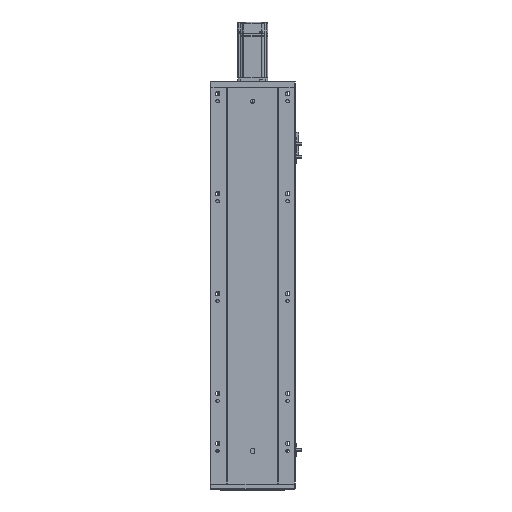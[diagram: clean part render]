
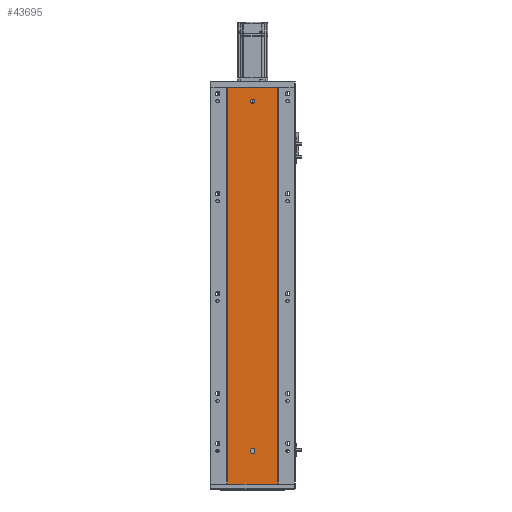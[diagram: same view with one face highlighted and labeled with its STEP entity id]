
A CAD part, front view. The second image highlights one B-rep face of the part: STEP entity #43695.
In plain terms, the highlighted planar face has unit normal (0, -1, 0).
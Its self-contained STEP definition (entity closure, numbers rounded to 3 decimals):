
#1180 = AXIS2_PLACEMENT_3D ( 'NONE', #3226, #64429, #18132 ) ;
#1413 = CIRCLE ( 'NONE', #56850, 4. ) ;
#2357 = AXIS2_PLACEMENT_3D ( 'NONE', #37091, #62751, #26306 ) ;
#3226 = CARTESIAN_POINT ( 'NONE',  ( 136.47, 79.476, 766. ) ) ;
#4867 = FACE_BOUND ( 'NONE', #34061, .T. ) ;
#6509 = VERTEX_POINT ( 'NONE', #33841 ) ;
#7767 = CIRCLE ( 'NONE', #26725, 4. ) ;
#9235 = VECTOR ( 'NONE', #16867, 1000. ) ;
#10747 = ORIENTED_EDGE ( 'NONE', *, *, #28209, .T. ) ;
#10765 = VECTOR ( 'NONE', #57439, 1000. ) ;
#12203 = VERTEX_POINT ( 'NONE', #37933 ) ;
#12476 = CARTESIAN_POINT ( 'NONE',  ( 185.97, 79.476, 794. ) ) ;
#13297 = CARTESIAN_POINT ( 'NONE',  ( 136.47, 79.476, 762. ) ) ;
#13829 = EDGE_LOOP ( 'NONE', ( #54162, #16016 ) ) ;
#13961 = CARTESIAN_POINT ( 'NONE',  ( 86.97, 79.476, 0. ) ) ;
#14165 = DIRECTION ( 'NONE',  ( 1., 0., 0. ) ) ;
#16016 = ORIENTED_EDGE ( 'NONE', *, *, #49900, .F. ) ;
#16867 = DIRECTION ( 'NONE',  ( 1., 0., 0. ) ) ;
#17453 = ORIENTED_EDGE ( 'NONE', *, *, #33228, .F. ) ;
#18132 = DIRECTION ( 'NONE',  ( 0., 0., -1. ) ) ;
#19648 = ORIENTED_EDGE ( 'NONE', *, *, #64946, .F. ) ;
#20075 = VERTEX_POINT ( 'NONE', #63231 ) ;
#20545 = EDGE_CURVE ( 'NONE', #35540, #56981, #43037, .T. ) ;
#21229 = EDGE_CURVE ( 'NONE', #63578, #29695, #27666, .T. ) ;
#22064 = EDGE_CURVE ( 'NONE', #20075, #61273, #49783, .T. ) ;
#22564 = DIRECTION ( 'NONE',  ( 0., -1., 0. ) ) ;
#22764 = ORIENTED_EDGE ( 'NONE', *, *, #28161, .F. ) ;
#22781 = CIRCLE ( 'NONE', #51001, 4. ) ;
#22902 = CARTESIAN_POINT ( 'NONE',  ( 0., 79.476, 794. ) ) ;
#24523 = DIRECTION ( 'NONE',  ( 0., 0., -1. ) ) ;
#25769 = AXIS2_PLACEMENT_3D ( 'NONE', #30314, #55270, #24523 ) ;
#26306 = DIRECTION ( 'NONE',  ( 0., 0., 1. ) ) ;
#26431 = VECTOR ( 'NONE', #14165, 1000. ) ;
#26725 = AXIS2_PLACEMENT_3D ( 'NONE', #45014, #35415, #60875 ) ;
#27666 = LINE ( 'NONE', #57210, #10765 ) ;
#27906 = DIRECTION ( 'NONE',  ( 0., 0., -1. ) ) ;
#28161 = EDGE_CURVE ( 'NONE', #56981, #41471, #52120, .T. ) ;
#28209 = EDGE_CURVE ( 'NONE', #61273, #52400, #32023, .T. ) ;
#29471 = ORIENTED_EDGE ( 'NONE', *, *, #61831, .F. ) ;
#29695 = VERTEX_POINT ( 'NONE', #56181 ) ;
#29757 = DIRECTION ( 'NONE',  ( 0., -1., 0. ) ) ;
#30314 = CARTESIAN_POINT ( 'NONE',  ( 136.47, 79.476, 64.5 ) ) ;
#31084 = CARTESIAN_POINT ( 'NONE',  ( 140.47, 79.476, 67.5 ) ) ;
#32023 = LINE ( 'NONE', #55480, #26431 ) ;
#32497 = ORIENTED_EDGE ( 'NONE', *, *, #58906, .F. ) ;
#33228 = EDGE_CURVE ( 'NONE', #29695, #35540, #22781, .T. ) ;
#33841 = CARTESIAN_POINT ( 'NONE',  ( 136.47, 79.476, 770. ) ) ;
#34061 = EDGE_LOOP ( 'NONE', ( #17453, #65806, #19648, #22764, #54136 ) ) ;
#34269 = CARTESIAN_POINT ( 'NONE',  ( 185.97, 79.476, 529.333 ) ) ;
#34837 = CARTESIAN_POINT ( 'NONE',  ( 86.97, 79.476, 529.333 ) ) ;
#35415 = DIRECTION ( 'NONE',  ( 0., -1., 0. ) ) ;
#35540 = VERTEX_POINT ( 'NONE', #43744 ) ;
#36385 = ORIENTED_EDGE ( 'NONE', *, *, #22064, .T. ) ;
#37091 = CARTESIAN_POINT ( 'NONE',  ( 0., 79.476, 794. ) ) ;
#37915 = EDGE_CURVE ( 'NONE', #54886, #6509, #42498, .T. ) ;
#37933 = CARTESIAN_POINT ( 'NONE',  ( 185.97, 79.476, 794. ) ) ;
#38223 = LINE ( 'NONE', #22902, #9235 ) ;
#38729 = B_SPLINE_CURVE_WITH_KNOTS ( 'NONE', 3,
 ( #12476, #34269, #54710, #49745 ),
 .UNSPECIFIED., .F., .F.,
 ( 4, 4 ),
 ( 0., 1. ),
 .UNSPECIFIED. ) ;
#39746 = DIRECTION ( 'NONE',  ( 0., 0., 1. ) ) ;
#40054 = VECTOR ( 'NONE', #39746, 1000. ) ;
#40531 = CARTESIAN_POINT ( 'NONE',  ( 136.47, 79.476, 766. ) ) ;
#41471 = VERTEX_POINT ( 'NONE', #31084 ) ;
#41552 = PLANE ( 'NONE',  #2357 ) ;
#41575 = CARTESIAN_POINT ( 'NONE',  ( 86.97, 79.476, 0. ) ) ;
#41971 = CARTESIAN_POINT ( 'NONE',  ( 185.97, 79.476, 0. ) ) ;
#42498 = CIRCLE ( 'NONE', #1180, 4. ) ;
#43037 = CIRCLE ( 'NONE', #25769, 4. ) ;
#43695 = ADVANCED_FACE ( 'NONE', ( #4867, #46665, #58782 ), #41552, .F. ) ;
#43744 = CARTESIAN_POINT ( 'NONE',  ( 136.47, 79.476, 60.5 ) ) ;
#44670 = CARTESIAN_POINT ( 'NONE',  ( 140.47, 79.476, 67.5 ) ) ;
#45014 = CARTESIAN_POINT ( 'NONE',  ( 136.47, 79.476, 67.5 ) ) ;
#45683 = DIRECTION ( 'NONE',  ( 0., 0., -1. ) ) ;
#46665 = FACE_BOUND ( 'NONE', #13829, .T. ) ;
#49745 = CARTESIAN_POINT ( 'NONE',  ( 185.97, 79.476, 0. ) ) ;
#49783 = B_SPLINE_CURVE_WITH_KNOTS ( 'NONE', 3,
 ( #65664, #34837, #55053, #13961 ),
 .UNSPECIFIED., .F., .F.,
 ( 4, 4 ),
 ( 0., 1. ),
 .UNSPECIFIED. ) ;
#49900 = EDGE_CURVE ( 'NONE', #6509, #54886, #1413, .T. ) ;
#51001 = AXIS2_PLACEMENT_3D ( 'NONE', #53286, #22564, #27906 ) ;
#52120 = LINE ( 'NONE', #44670, #40054 ) ;
#52400 = VERTEX_POINT ( 'NONE', #41971 ) ;
#53286 = CARTESIAN_POINT ( 'NONE',  ( 136.47, 79.476, 64.5 ) ) ;
#54136 = ORIENTED_EDGE ( 'NONE', *, *, #20545, .F. ) ;
#54162 = ORIENTED_EDGE ( 'NONE', *, *, #37915, .F. ) ;
#54710 = CARTESIAN_POINT ( 'NONE',  ( 185.97, 79.476, 264.667 ) ) ;
#54886 = VERTEX_POINT ( 'NONE', #13297 ) ;
#55053 = CARTESIAN_POINT ( 'NONE',  ( 86.97, 79.476, 264.667 ) ) ;
#55270 = DIRECTION ( 'NONE',  ( 0., -1., 0. ) ) ;
#55480 = CARTESIAN_POINT ( 'NONE',  ( 0., 79.476, 0. ) ) ;
#56181 = CARTESIAN_POINT ( 'NONE',  ( 132.47, 79.476, 64.5 ) ) ;
#56850 = AXIS2_PLACEMENT_3D ( 'NONE', #40531, #29757, #45683 ) ;
#56981 = VERTEX_POINT ( 'NONE', #58889 ) ;
#57210 = CARTESIAN_POINT ( 'NONE',  ( 132.47, 79.476, 67.5 ) ) ;
#57439 = DIRECTION ( 'NONE',  ( 0., 0., -1. ) ) ;
#58782 = FACE_OUTER_BOUND ( 'NONE', #66208, .T. ) ;
#58889 = CARTESIAN_POINT ( 'NONE',  ( 140.47, 79.476, 64.5 ) ) ;
#58906 = EDGE_CURVE ( 'NONE', #12203, #52400, #38729, .T. ) ;
#58988 = CARTESIAN_POINT ( 'NONE',  ( 132.47, 79.476, 67.5 ) ) ;
#60875 = DIRECTION ( 'NONE',  ( 0., 0., -1. ) ) ;
#61273 = VERTEX_POINT ( 'NONE', #41575 ) ;
#61831 = EDGE_CURVE ( 'NONE', #20075, #12203, #38223, .T. ) ;
#62751 = DIRECTION ( 'NONE',  ( 0., 1., 0. ) ) ;
#63231 = CARTESIAN_POINT ( 'NONE',  ( 86.97, 79.476, 794. ) ) ;
#63578 = VERTEX_POINT ( 'NONE', #58988 ) ;
#64429 = DIRECTION ( 'NONE',  ( 0., -1., 0. ) ) ;
#64946 = EDGE_CURVE ( 'NONE', #41471, #63578, #7767, .T. ) ;
#65664 = CARTESIAN_POINT ( 'NONE',  ( 86.97, 79.476, 794. ) ) ;
#65806 = ORIENTED_EDGE ( 'NONE', *, *, #21229, .F. ) ;
#66208 = EDGE_LOOP ( 'NONE', ( #10747, #32497, #29471, #36385 ) ) ;
